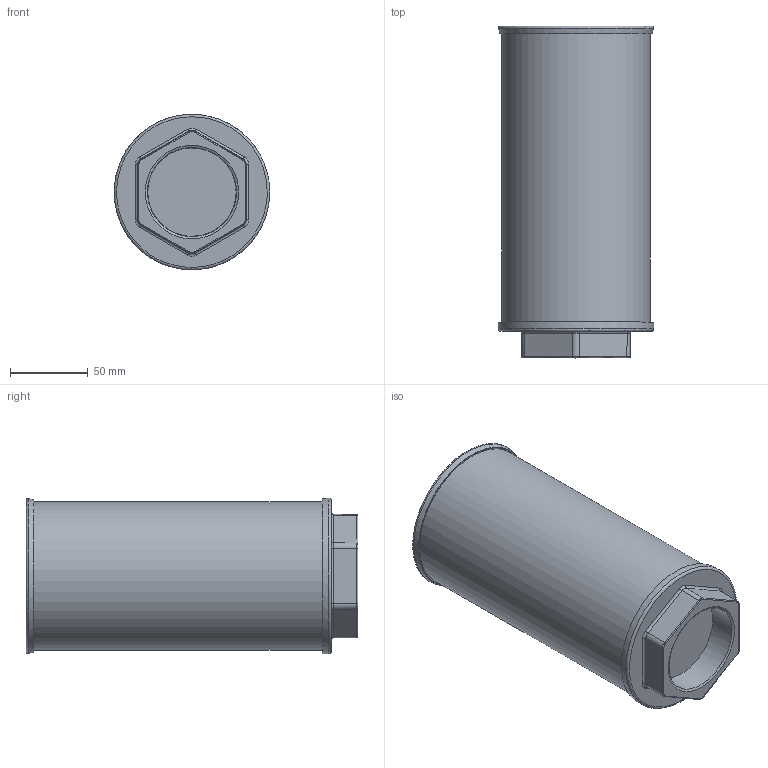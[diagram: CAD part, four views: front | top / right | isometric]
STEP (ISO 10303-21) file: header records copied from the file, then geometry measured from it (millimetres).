
FILE_DESCRIPTION((''),'2;1');
FILE_NAME('U:\Users\t.schleuter\Saugfilter14533200(247951).stp', '2013-04-15T10:44:01',('User'),('SDRC'),'I-DEAS Master Series 9','UNIX', 'Yes');
FILE_SCHEMA(('AUTOMOTIVE_DESIGN { 1 0 10303 214 1 1 1 1 }'));
Length unit declared in the file: millimetre
Products named in the file (1): 14533200(247951)
Bounding box: 99.81 x 213 x 99.78 mm (x, y, z)
Volume: 1436996 mm3; surface area: 82560.6 mm2
Topology: 1 solids, 1 shells, 55 faces, 115 edges, 69 vertices
Faces by surface type: bspline 55
Entity records: 1842 total; most frequent: CARTESIAN_POINT 1123, ORIENTED_EDGE 224, EDGE_CURVE 112, VERTEX_POINT 65, B_SPLINE_CURVE_WITH_KNOTS 63, EDGE_LOOP 61, FACE_OUTER_BOUND 55, ADVANCED_FACE 55
